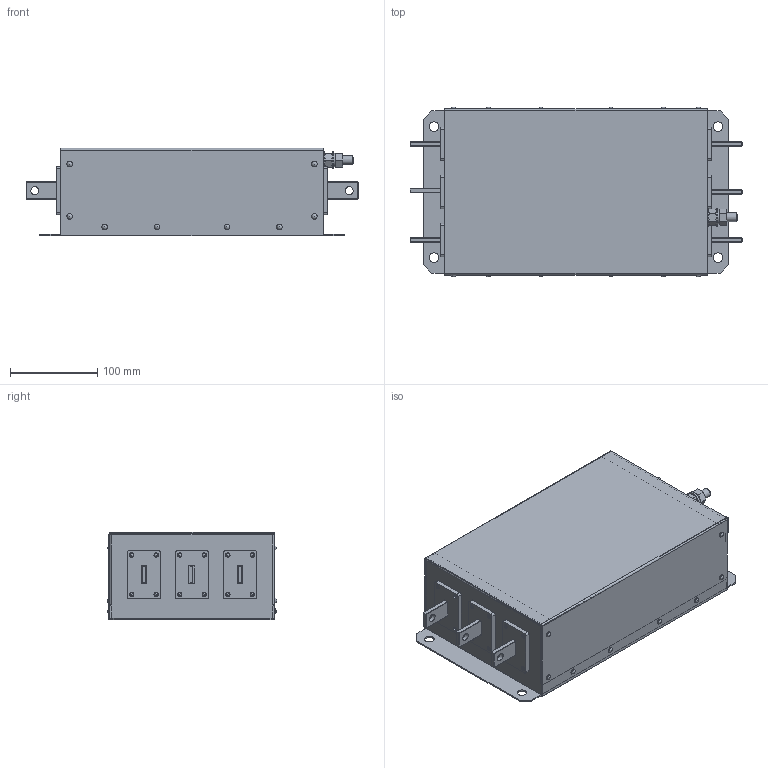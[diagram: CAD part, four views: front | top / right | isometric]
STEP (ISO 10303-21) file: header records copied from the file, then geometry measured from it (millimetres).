
FILE_DESCRIPTION(('STEP AP203'), '1');
FILE_NAME('ÝÌÑ ôèëüòð - IEF-110_214-4', '', ('UNSPECIFIED'), ('UNSPECIFIED'), 'C3D Converter', 'C3D Toolkit', '');
FILE_SCHEMA(('CONFIG_CONTROL_DESIGN'));
Length unit declared in the file: millimetre
Products named in the file (20): IEF-110_214-4; ГОСТ 10299-80; DIN 976; DIN 125 (A); DIN 127 (A); DIN 934
Assembly tree (75 placements, depth 4):
  IEF-110_214-4
    IEF-110_214-4
      IEF-110_214-4
      IEF-110_214-4
      IEF-110_214-4
      ГОСТ 10299-80  x16
        (unnamed)
      IEF-110_214-4
    IEF-110_214-4  x12
    IEF-110_214-4  x6
    ГОСТ 10299-80  x24
      (unnamed)
    DIN 976
      (unnamed)
    DIN 125 (A)  x2
      (unnamed)
    DIN 127 (A)
      (unnamed)
    DIN 934  x2
      (unnamed)
Bounding box: 380 x 194.2 x 100 mm (x, y, z)
Volume: 418931.7 mm3; surface area: 556523.5 mm2
Topology: 68 solids, 68 shells, 988 faces, 2094 edges, 1306 vertices
Faces by surface type: plane 482, cylinder 328, torus 80, sphere 64, cone 30, bspline 4
Full cylindrical faces by diameter (mm): 3 x96, 3.5 x48, 5 x48, 8.376 x2, 9 x6, 10 x2, 10.5 x2, 11 x4, 20 x2
Entity records: 12494 total; most frequent: CARTESIAN_POINT 2418, DIRECTION 1626, ORIENTED_EDGE 1308, EDGE_CURVE 654, AXIS2_PLACEMENT_3D 622, EDGE_LOOP 556, VERTEX_POINT 456, FACE_BOUND 386
